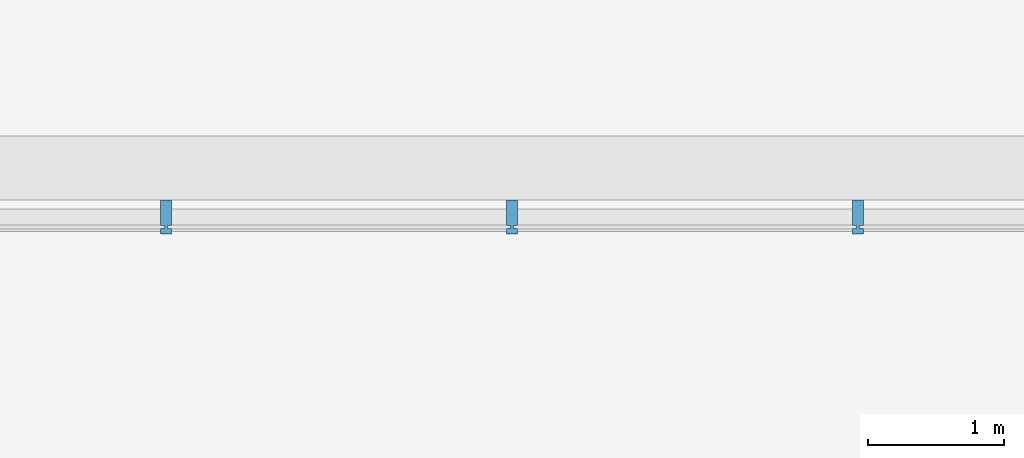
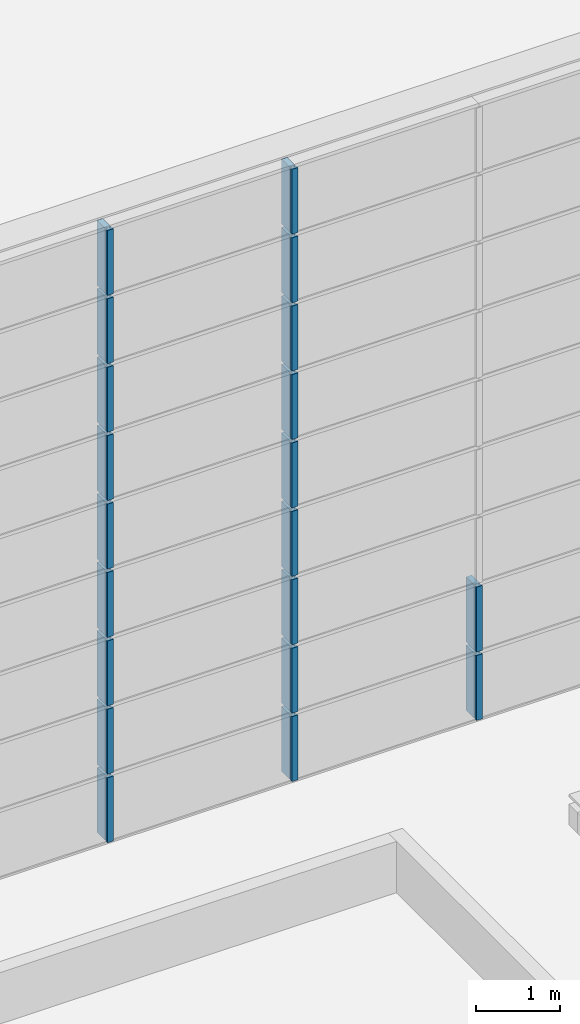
# One storey, part 80 of 105: 20 building element parts, 3 elements without a shape of their own.
"""IFC4 building model written with IfcOpenShell, lengths in millimetres."""

from ifc_helpers import new_model, entity, si_unit, converted_unit, derived_unit, direction, frame, origin_with_axes, place, context, subcontext, project, spatial, triangles, material, element, aggregate, save


model = new_model("IFC4")

# Units and contexts
model_context = context("Model", 3, precision=1e-05, world=origin_with_axes(), true_north=direction((0.0, 1.0)))
body_context = subcontext(model_context, "Body", "Model", "MODEL_VIEW")
ifc_project = project(units=[si_unit("LENGTHUNIT", "METRE", prefix="MILLI"), si_unit("AREAUNIT", "SQUARE_METRE"), si_unit("VOLUMEUNIT", "CUBIC_METRE"), converted_unit("PLANEANGLEUNIT", "DEGREE", entity("IfcLengthMeasure", 0.017453), si_unit("PLANEANGLEUNIT", "RADIAN"), dimensions=[0, 0, 0, 0, 0, 0, 0]), si_unit("SOLIDANGLEUNIT", "STERADIAN"), si_unit("MASSUNIT", "GRAM"), si_unit("TIMEUNIT", "SECOND"), si_unit("THERMODYNAMICTEMPERATUREUNIT", "DEGREE_CELSIUS"), si_unit("LUMINOUSINTENSITYUNIT", "LUMEN"), si_unit("POWERUNIT", "WATT"), derived_unit("THERMALTRANSMITTANCEUNIT", [(si_unit("POWERUNIT", "WATT"), 1), (si_unit("THERMODYNAMICTEMPERATUREUNIT", "KELVIN"), -1), (si_unit("AREAUNIT", "SQUARE_METRE"), -1)])], contexts=[model_context])

# Site, building, storey
site_placement = place(None, origin_with_axes())
site = spatial("IfcSite", under=ifc_project, at=site_placement, Name="Default Site", CompositionType="ELEMENT")
building_placement = place(site_placement, origin_with_axes())
building = spatial("IfcBuilding", under=site, at=building_placement, Name="Default Building", CompositionType="ELEMENT")
storey_placement = place(building_placement, origin_with_axes())
storey = spatial("IfcBuildingStorey", under=building, at=storey_placement, Name="OG - Story", CompositionType="ELEMENT", Elevation=0.0)

# Curtain wall, building element parts
curtain_wall_1_placement = place(storey_placement, origin_with_axes())
curtain_wall_1 = element("IfcCurtainWall", 1, at=curtain_wall_1_placement, inside=storey, Name="Fassade-005", PredefinedType="NOTDEFINED")
ifc_material = material(Name="Blech")
building_element_part_1_placement = place(curtain_wall_1_placement, frame((52496.845873, -27789.262838, 3000.0), z_axis=(0.0, 0.0, 1.0), x_axis=(1.0, 0.0, 0.0)))
building_element_part_1 = element("IfcBuildingElementPart", 2, at=building_element_part_1_placement, material=ifc_material, Name="Blech", PredefinedType="NOTDEFINED", context=body_context, shape_type="Tessellation", body=[
    triangles([(6417.273, 10.0, 975.0), (6417.273, 200.0, 975.0), (6387.273, 10.0, 975.0), (6367.273, 10.0, 975.0), (6387.273, -9.999, 975.0), (6417.273, -49.999, 975.0), (6417.273, -9.999, 975.0), (6337.273, 200.0, 975.0), (6337.273, 10.0, 975.0), (6367.273, -9.999, 975.0), (6337.273, -9.999, 975.0), (6337.273, -49.999, 975.0), (6387.273, 10.0, 25.0), (6417.273, 10.0, 25.0), (6417.273, 200.0, 25.0), (6337.273, 200.0, 25.0), (6337.273, 10.0, 25.0), (6367.273, 10.0, 25.0), (6367.273, -9.999, 25.0), (6337.273, -9.999, 25.0), (6337.273, -49.999, 25.0), (6417.273, -49.999, 25.0), (6417.273, -9.999, 25.0), (6387.273, -9.999, 25.0)], [[1, 2, 3], [3, 2, 4], [3, 4, 5], [5, 4, 6], [5, 6, 7], [8, 9, 4], [8, 4, 2], [6, 4, 10], [6, 10, 11], [6, 11, 12], [1, 3, 13], [1, 13, 14], [1, 14, 15], [1, 15, 2], [2, 15, 16], [2, 16, 8], [9, 8, 16], [9, 16, 17], [9, 17, 18], [9, 18, 4], [4, 18, 19], [4, 19, 10], [11, 10, 19], [11, 19, 20], [20, 21, 12], [20, 12, 11], [12, 21, 22], [12, 22, 6], [23, 7, 6], [23, 6, 22], [5, 7, 23], [5, 23, 24], [3, 5, 24], [3, 24, 13], [23, 22, 24], [24, 22, 19], [24, 19, 13], [13, 19, 15], [13, 15, 14], [21, 20, 19], [21, 19, 22], [15, 19, 18], [15, 18, 17], [15, 17, 16]], closed=False),
])
building_element_part_2_placement = place(curtain_wall_1_placement, frame((52496.845873, -27789.262838, 3000.0), z_axis=(0.0, 0.0, 1.0), x_axis=(1.0, 0.0, 0.0)))
building_element_part_2 = element("IfcBuildingElementPart", 3, at=building_element_part_2_placement, material=ifc_material, Name="Blech", PredefinedType="NOTDEFINED", context=body_context, shape_type="Tessellation", body=[
    triangles([(8968.182, 10.0, 975.0), (8968.182, 200.0, 975.0), (8938.182, 10.0, 975.0), (8918.182, 10.0, 975.0), (8938.182, -9.999, 975.0), (8968.182, -49.999, 975.0), (8968.182, -9.999, 975.0), (8888.182, 200.0, 975.0), (8888.182, 10.0, 975.0), (8918.182, -9.999, 975.0), (8888.182, -9.999, 975.0), (8888.182, -49.999, 975.0), (8938.182, 10.0, 25.0), (8968.182, 10.0, 25.0), (8968.182, 200.0, 25.0), (8888.182, 200.0, 25.0), (8888.182, 10.0, 25.0), (8918.182, 10.0, 25.0), (8918.182, -9.999, 25.0), (8888.182, -9.999, 25.0), (8888.182, -49.999, 25.0), (8968.182, -49.999, 25.0), (8968.182, -9.999, 25.0), (8938.182, -9.999, 25.0)], [[1, 2, 3], [3, 2, 4], [3, 4, 5], [5, 4, 6], [5, 6, 7], [8, 9, 4], [8, 4, 2], [6, 4, 10], [6, 10, 11], [6, 11, 12], [1, 3, 13], [1, 13, 14], [1, 14, 15], [1, 15, 2], [2, 15, 16], [2, 16, 8], [9, 8, 16], [9, 16, 17], [9, 17, 18], [9, 18, 4], [4, 18, 19], [4, 19, 10], [11, 10, 19], [11, 19, 20], [20, 21, 12], [20, 12, 11], [12, 21, 22], [12, 22, 6], [23, 7, 6], [23, 6, 22], [5, 7, 23], [5, 23, 24], [3, 5, 24], [3, 24, 13], [23, 22, 24], [24, 22, 19], [24, 19, 13], [13, 19, 15], [13, 15, 14], [21, 20, 19], [21, 19, 22], [15, 19, 18], [15, 18, 17], [15, 17, 16]], closed=False),
])
building_element_part_3_placement = place(curtain_wall_1_placement, frame((52496.845873, -27789.262838, 3000.0), z_axis=(0.0, 0.0, 1.0), x_axis=(1.0, 0.0, 0.0)))
building_element_part_3 = element("IfcBuildingElementPart", 4, at=building_element_part_3_placement, material=ifc_material, Name="Blech", PredefinedType="NOTDEFINED", context=body_context, shape_type="Tessellation", body=[
    triangles([(11519.091, 10.0, 975.0), (11519.091, 200.0, 975.0), (11489.091, 10.0, 975.0), (11469.091, 10.0, 975.0), (11489.091, -9.999, 975.0), (11519.091, -49.999, 975.0), (11519.091, -9.999, 975.0), (11439.091, 200.0, 975.0), (11439.091, 10.0, 975.0), (11469.091, -9.999, 975.0), (11439.091, -9.999, 975.0), (11439.091, -49.999, 975.0), (11489.091, 10.0, 25.0), (11519.091, 10.0, 25.0), (11519.091, 200.0, 25.0), (11439.091, 200.0, 25.0), (11439.091, 10.0, 25.0), (11469.091, 10.0, 25.0), (11469.091, -9.999, 25.0), (11439.091, -9.999, 25.0), (11439.091, -49.999, 25.0), (11519.091, -49.999, 25.0), (11519.091, -9.999, 25.0), (11489.091, -9.999, 25.0)], [[1, 2, 3], [3, 2, 4], [3, 4, 5], [5, 4, 6], [5, 6, 7], [8, 9, 4], [8, 4, 2], [6, 4, 10], [6, 10, 11], [6, 11, 12], [1, 3, 13], [1, 13, 14], [1, 14, 15], [1, 15, 2], [2, 15, 16], [2, 16, 8], [9, 8, 16], [9, 16, 17], [9, 17, 18], [9, 18, 4], [4, 18, 19], [4, 19, 10], [11, 10, 19], [11, 19, 20], [20, 21, 12], [20, 12, 11], [12, 21, 22], [12, 22, 6], [23, 7, 6], [23, 6, 22], [5, 7, 23], [5, 23, 24], [3, 5, 24], [3, 24, 13], [23, 22, 24], [24, 22, 19], [24, 19, 13], [13, 19, 15], [13, 15, 14], [21, 20, 19], [21, 19, 22], [15, 19, 18], [15, 18, 17], [15, 17, 16]], closed=False),
])
building_element_part_4_placement = place(curtain_wall_1_placement, frame((52496.845873, -27789.262838, 3000.0), z_axis=(0.0, 0.0, 1.0), x_axis=(1.0, 0.0, 0.0)))
building_element_part_4 = element("IfcBuildingElementPart", 5, at=building_element_part_4_placement, material=ifc_material, Name="Blech", PredefinedType="NOTDEFINED", context=body_context, shape_type="Tessellation", body=[
    triangles([(6417.273, 10.0, 1975.0), (6417.273, 200.0, 1975.0), (6387.273, 10.0, 1975.0), (6367.273, 10.0, 1975.0), (6387.273, -9.999, 1975.0), (6417.273, -49.999, 1975.0), (6417.273, -9.999, 1975.0), (6337.273, 200.0, 1975.0), (6337.273, 10.0, 1975.0), (6367.273, -9.999, 1975.0), (6337.273, -9.999, 1975.0), (6337.273, -49.999, 1975.0), (6387.273, 10.0, 1025.0), (6417.273, 10.0, 1025.0), (6417.273, 200.0, 1025.0), (6337.273, 200.0, 1025.0), (6337.273, 10.0, 1025.0), (6367.273, 10.0, 1025.0), (6367.273, -9.999, 1025.0), (6337.273, -9.999, 1025.0), (6337.273, -49.999, 1025.0), (6417.273, -49.999, 1025.0), (6417.273, -9.999, 1025.0), (6387.273, -9.999, 1025.0)], [[1, 2, 3], [3, 2, 4], [3, 4, 5], [5, 4, 6], [5, 6, 7], [8, 9, 4], [8, 4, 2], [6, 4, 10], [6, 10, 11], [6, 11, 12], [1, 3, 13], [1, 13, 14], [1, 14, 15], [1, 15, 2], [2, 15, 16], [2, 16, 8], [9, 8, 16], [9, 16, 17], [9, 17, 18], [9, 18, 4], [4, 18, 19], [4, 19, 10], [11, 10, 19], [11, 19, 20], [20, 21, 12], [20, 12, 11], [12, 21, 22], [12, 22, 6], [23, 7, 6], [23, 6, 22], [5, 7, 23], [5, 23, 24], [3, 5, 24], [3, 24, 13], [23, 22, 24], [24, 22, 19], [24, 19, 13], [13, 19, 15], [13, 15, 14], [21, 20, 19], [21, 19, 22], [15, 19, 18], [15, 18, 17], [15, 17, 16]], closed=False),
])
building_element_part_5_placement = place(curtain_wall_1_placement, frame((52496.845873, -27789.262838, 3000.0), z_axis=(0.0, 0.0, 1.0), x_axis=(1.0, 0.0, 0.0)))
building_element_part_5 = element("IfcBuildingElementPart", 6, at=building_element_part_5_placement, material=ifc_material, Name="Blech", PredefinedType="NOTDEFINED", context=body_context, shape_type="Tessellation", body=[
    triangles([(8968.182, 10.0, 1975.0), (8968.182, 200.0, 1975.0), (8938.182, 10.0, 1975.0), (8918.182, 10.0, 1975.0), (8938.182, -9.999, 1975.0), (8968.182, -49.999, 1975.0), (8968.182, -9.999, 1975.0), (8888.182, 200.0, 1975.0), (8888.182, 10.0, 1975.0), (8918.182, -9.999, 1975.0), (8888.182, -9.999, 1975.0), (8888.182, -49.999, 1975.0), (8938.182, 10.0, 1025.0), (8968.182, 10.0, 1025.0), (8968.182, 200.0, 1025.0), (8888.182, 200.0, 1025.0), (8888.182, 10.0, 1025.0), (8918.182, 10.0, 1025.0), (8918.182, -9.999, 1025.0), (8888.182, -9.999, 1025.0), (8888.182, -49.999, 1025.0), (8968.182, -49.999, 1025.0), (8968.182, -9.999, 1025.0), (8938.182, -9.999, 1025.0)], [[1, 2, 3], [3, 2, 4], [3, 4, 5], [5, 4, 6], [5, 6, 7], [8, 9, 4], [8, 4, 2], [6, 4, 10], [6, 10, 11], [6, 11, 12], [1, 3, 13], [1, 13, 14], [1, 14, 15], [1, 15, 2], [2, 15, 16], [2, 16, 8], [9, 8, 16], [9, 16, 17], [9, 17, 18], [9, 18, 4], [4, 18, 19], [4, 19, 10], [11, 10, 19], [11, 19, 20], [20, 21, 12], [20, 12, 11], [12, 21, 22], [12, 22, 6], [23, 7, 6], [23, 6, 22], [5, 7, 23], [5, 23, 24], [3, 5, 24], [3, 24, 13], [23, 22, 24], [24, 22, 19], [24, 19, 13], [13, 19, 15], [13, 15, 14], [21, 20, 19], [21, 19, 22], [15, 19, 18], [15, 18, 17], [15, 17, 16]], closed=False),
])
building_element_part_6_placement = place(curtain_wall_1_placement, frame((52496.845873, -27789.262838, 3000.0), z_axis=(0.0, 0.0, 1.0), x_axis=(1.0, 0.0, 0.0)))
building_element_part_6 = element("IfcBuildingElementPart", 7, at=building_element_part_6_placement, material=ifc_material, Name="Blech", PredefinedType="NOTDEFINED", context=body_context, shape_type="Tessellation", body=[
    triangles([(11519.091, 10.0, 1975.0), (11519.091, 200.0, 1975.0), (11489.091, 10.0, 1975.0), (11469.091, 10.0, 1975.0), (11489.091, -9.999, 1975.0), (11519.091, -49.999, 1975.0), (11519.091, -9.999, 1975.0), (11439.091, 200.0, 1975.0), (11439.091, 10.0, 1975.0), (11469.091, -9.999, 1975.0), (11439.091, -9.999, 1975.0), (11439.091, -49.999, 1975.0), (11489.091, 10.0, 1025.0), (11519.091, 10.0, 1025.0), (11519.091, 200.0, 1025.0), (11439.091, 200.0, 1025.0), (11439.091, 10.0, 1025.0), (11469.091, 10.0, 1025.0), (11469.091, -9.999, 1025.0), (11439.091, -9.999, 1025.0), (11439.091, -49.999, 1025.0), (11519.091, -49.999, 1025.0), (11519.091, -9.999, 1025.0), (11489.091, -9.999, 1025.0)], [[1, 2, 3], [3, 2, 4], [3, 4, 5], [5, 4, 6], [5, 6, 7], [8, 9, 4], [8, 4, 2], [6, 4, 10], [6, 10, 11], [6, 11, 12], [1, 3, 13], [1, 13, 14], [1, 14, 15], [1, 15, 2], [2, 15, 16], [2, 16, 8], [9, 8, 16], [9, 16, 17], [9, 17, 18], [9, 18, 4], [4, 18, 19], [4, 19, 10], [11, 10, 19], [11, 19, 20], [20, 21, 12], [20, 12, 11], [12, 21, 22], [12, 22, 6], [23, 7, 6], [23, 6, 22], [5, 7, 23], [5, 23, 24], [3, 5, 24], [3, 24, 13], [23, 22, 24], [24, 22, 19], [24, 19, 13], [13, 19, 15], [13, 15, 14], [21, 20, 19], [21, 19, 22], [15, 19, 18], [15, 18, 17], [15, 17, 16]], closed=False),
])
building_element_part_7_placement = place(curtain_wall_1_placement, frame((52496.845873, -27789.262838, 3000.0), z_axis=(0.0, 0.0, 1.0), x_axis=(1.0, 0.0, 0.0)))
building_element_part_7 = element("IfcBuildingElementPart", 8, at=building_element_part_7_placement, material=ifc_material, Name="Blech", PredefinedType="NOTDEFINED", context=body_context, shape_type="Tessellation", body=[
    triangles([(6417.273, 10.0, 2975.0), (6417.273, 200.0, 2975.0), (6387.273, 10.0, 2975.0), (6367.273, 10.0, 2975.0), (6387.273, -9.999, 2975.0), (6417.273, -49.999, 2975.0), (6417.273, -9.999, 2975.0), (6337.273, 200.0, 2975.0), (6337.273, 10.0, 2975.0), (6367.273, -9.999, 2975.0), (6337.273, -9.999, 2975.0), (6337.273, -49.999, 2975.0), (6387.273, 10.0, 2025.0), (6417.273, 10.0, 2025.0), (6417.273, 200.0, 2025.0), (6337.273, 200.0, 2025.0), (6337.273, 10.0, 2025.0), (6367.273, 10.0, 2025.0), (6367.273, -9.999, 2025.0), (6337.273, -9.999, 2025.0), (6337.273, -49.999, 2025.0), (6417.273, -49.999, 2025.0), (6417.273, -9.999, 2025.0), (6387.273, -9.999, 2025.0)], [[1, 2, 3], [3, 2, 4], [3, 4, 5], [5, 4, 6], [5, 6, 7], [8, 9, 4], [8, 4, 2], [6, 4, 10], [6, 10, 11], [6, 11, 12], [1, 3, 13], [1, 13, 14], [1, 14, 15], [1, 15, 2], [2, 15, 16], [2, 16, 8], [9, 8, 16], [9, 16, 17], [9, 17, 18], [9, 18, 4], [4, 18, 19], [4, 19, 10], [11, 10, 19], [11, 19, 20], [20, 21, 12], [20, 12, 11], [12, 21, 22], [12, 22, 6], [23, 7, 6], [23, 6, 22], [5, 7, 23], [5, 23, 24], [3, 5, 24], [3, 24, 13], [23, 22, 24], [24, 22, 19], [24, 19, 13], [13, 19, 15], [13, 15, 14], [21, 20, 19], [21, 19, 22], [15, 19, 18], [15, 18, 17], [15, 17, 16]], closed=False),
])
building_element_part_8_placement = place(curtain_wall_1_placement, frame((52496.845873, -27789.262838, 3000.0), z_axis=(0.0, 0.0, 1.0), x_axis=(1.0, 0.0, 0.0)))
building_element_part_8 = element("IfcBuildingElementPart", 9, at=building_element_part_8_placement, material=ifc_material, Name="Blech", PredefinedType="NOTDEFINED", context=body_context, shape_type="Tessellation", body=[
    triangles([(8968.182, 10.0, 2975.0), (8968.182, 200.0, 2975.0), (8938.182, 10.0, 2975.0), (8918.182, 10.0, 2975.0), (8938.182, -9.999, 2975.0), (8968.182, -49.999, 2975.0), (8968.182, -9.999, 2975.0), (8888.182, 200.0, 2975.0), (8888.182, 10.0, 2975.0), (8918.182, -9.999, 2975.0), (8888.182, -9.999, 2975.0), (8888.182, -49.999, 2975.0), (8938.182, 10.0, 2025.0), (8968.182, 10.0, 2025.0), (8968.182, 200.0, 2025.0), (8888.182, 200.0, 2025.0), (8888.182, 10.0, 2025.0), (8918.182, 10.0, 2025.0), (8918.182, -9.999, 2025.0), (8888.182, -9.999, 2025.0), (8888.182, -49.999, 2025.0), (8968.182, -49.999, 2025.0), (8968.182, -9.999, 2025.0), (8938.182, -9.999, 2025.0)], [[1, 2, 3], [3, 2, 4], [3, 4, 5], [5, 4, 6], [5, 6, 7], [8, 9, 4], [8, 4, 2], [6, 4, 10], [6, 10, 11], [6, 11, 12], [1, 3, 13], [1, 13, 14], [1, 14, 15], [1, 15, 2], [2, 15, 16], [2, 16, 8], [9, 8, 16], [9, 16, 17], [9, 17, 18], [9, 18, 4], [4, 18, 19], [4, 19, 10], [11, 10, 19], [11, 19, 20], [20, 21, 12], [20, 12, 11], [12, 21, 22], [12, 22, 6], [23, 7, 6], [23, 6, 22], [5, 7, 23], [5, 23, 24], [3, 5, 24], [3, 24, 13], [23, 22, 24], [24, 22, 19], [24, 19, 13], [13, 19, 15], [13, 15, 14], [21, 20, 19], [21, 19, 22], [15, 19, 18], [15, 18, 17], [15, 17, 16]], closed=False),
])
aggregate(curtain_wall_1, [building_element_part_1, building_element_part_2, building_element_part_3, building_element_part_4, building_element_part_5, building_element_part_6, building_element_part_7, building_element_part_8])

curtain_wall_2_placement = place(storey_placement, origin_with_axes())
curtain_wall_2 = element("IfcCurtainWall", 10, at=curtain_wall_2_placement, inside=storey, Name="Fassade-005", PredefinedType="NOTDEFINED")
building_element_part_9_placement = place(curtain_wall_2_placement, frame((52496.845873, -27789.262838, 6000.0), z_axis=(0.0, 0.0, 1.0), x_axis=(1.0, 0.0, 0.0)))
building_element_part_9 = element("IfcBuildingElementPart", 11, at=building_element_part_9_placement, material=ifc_material, Name="Blech", PredefinedType="NOTDEFINED", context=body_context, shape_type="Tessellation", body=[
    triangles([(6417.273, 10.0, 975.0), (6417.273, 200.0, 975.0), (6387.273, 10.0, 975.0), (6367.273, 10.0, 975.0), (6387.273, -9.999, 975.0), (6417.273, -49.999, 975.0), (6417.273, -9.999, 975.0), (6337.273, 200.0, 975.0), (6337.273, 10.0, 975.0), (6367.273, -9.999, 975.0), (6337.273, -9.999, 975.0), (6337.273, -49.999, 975.0), (6387.273, 10.0, 25.0), (6417.273, 10.0, 25.0), (6417.273, 200.0, 25.0), (6337.273, 200.0, 25.0), (6337.273, 10.0, 25.0), (6367.273, 10.0, 25.0), (6367.273, -9.999, 25.0), (6337.273, -9.999, 25.0), (6337.273, -49.999, 25.0), (6417.273, -49.999, 25.0), (6417.273, -9.999, 25.0), (6387.273, -9.999, 25.0)], [[1, 2, 3], [3, 2, 4], [3, 4, 5], [5, 4, 6], [5, 6, 7], [8, 9, 4], [8, 4, 2], [6, 4, 10], [6, 10, 11], [6, 11, 12], [1, 3, 13], [1, 13, 14], [1, 14, 15], [1, 15, 2], [2, 15, 16], [2, 16, 8], [9, 8, 16], [9, 16, 17], [9, 17, 18], [9, 18, 4], [4, 18, 19], [4, 19, 10], [11, 10, 19], [11, 19, 20], [20, 21, 12], [20, 12, 11], [12, 21, 22], [12, 22, 6], [23, 7, 6], [23, 6, 22], [5, 7, 23], [5, 23, 24], [3, 5, 24], [3, 24, 13], [23, 22, 24], [24, 22, 19], [24, 19, 13], [13, 19, 15], [13, 15, 14], [21, 20, 19], [21, 19, 22], [15, 19, 18], [15, 18, 17], [15, 17, 16]], closed=False),
])
building_element_part_10_placement = place(curtain_wall_2_placement, frame((52496.845873, -27789.262838, 6000.0), z_axis=(0.0, 0.0, 1.0), x_axis=(1.0, 0.0, 0.0)))
building_element_part_10 = element("IfcBuildingElementPart", 12, at=building_element_part_10_placement, material=ifc_material, Name="Blech", PredefinedType="NOTDEFINED", context=body_context, shape_type="Tessellation", body=[
    triangles([(8968.182, 10.0, 975.0), (8968.182, 200.0, 975.0), (8938.182, 10.0, 975.0), (8918.182, 10.0, 975.0), (8938.182, -9.999, 975.0), (8968.182, -49.999, 975.0), (8968.182, -9.999, 975.0), (8888.182, 200.0, 975.0), (8888.182, 10.0, 975.0), (8918.182, -9.999, 975.0), (8888.182, -9.999, 975.0), (8888.182, -49.999, 975.0), (8938.182, 10.0, 25.0), (8968.182, 10.0, 25.0), (8968.182, 200.0, 25.0), (8888.182, 200.0, 25.0), (8888.182, 10.0, 25.0), (8918.182, 10.0, 25.0), (8918.182, -9.999, 25.0), (8888.182, -9.999, 25.0), (8888.182, -49.999, 25.0), (8968.182, -49.999, 25.0), (8968.182, -9.999, 25.0), (8938.182, -9.999, 25.0)], [[1, 2, 3], [3, 2, 4], [3, 4, 5], [5, 4, 6], [5, 6, 7], [8, 9, 4], [8, 4, 2], [6, 4, 10], [6, 10, 11], [6, 11, 12], [1, 3, 13], [1, 13, 14], [1, 14, 15], [1, 15, 2], [2, 15, 16], [2, 16, 8], [9, 8, 16], [9, 16, 17], [9, 17, 18], [9, 18, 4], [4, 18, 19], [4, 19, 10], [11, 10, 19], [11, 19, 20], [20, 21, 12], [20, 12, 11], [12, 21, 22], [12, 22, 6], [23, 7, 6], [23, 6, 22], [5, 7, 23], [5, 23, 24], [3, 5, 24], [3, 24, 13], [23, 22, 24], [24, 22, 19], [24, 19, 13], [13, 19, 15], [13, 15, 14], [21, 20, 19], [21, 19, 22], [15, 19, 18], [15, 18, 17], [15, 17, 16]], closed=False),
])
building_element_part_11_placement = place(curtain_wall_2_placement, frame((52496.845873, -27789.262838, 6000.0), z_axis=(0.0, 0.0, 1.0), x_axis=(1.0, 0.0, 0.0)))
building_element_part_11 = element("IfcBuildingElementPart", 13, at=building_element_part_11_placement, material=ifc_material, Name="Blech", PredefinedType="NOTDEFINED", context=body_context, shape_type="Tessellation", body=[
    triangles([(6417.273, 10.0, 1975.0), (6417.273, 200.0, 1975.0), (6387.273, 10.0, 1975.0), (6367.273, 10.0, 1975.0), (6387.273, -9.999, 1975.0), (6417.273, -49.999, 1975.0), (6417.273, -9.999, 1975.0), (6337.273, 200.0, 1975.0), (6337.273, 10.0, 1975.0), (6367.273, -9.999, 1975.0), (6337.273, -9.999, 1975.0), (6337.273, -49.999, 1975.0), (6387.273, 10.0, 1025.0), (6417.273, 10.0, 1025.0), (6417.273, 200.0, 1025.0), (6337.273, 200.0, 1025.0), (6337.273, 10.0, 1025.0), (6367.273, 10.0, 1025.0), (6367.273, -9.999, 1025.0), (6337.273, -9.999, 1025.0), (6337.273, -49.999, 1025.0), (6417.273, -49.999, 1025.0), (6417.273, -9.999, 1025.0), (6387.273, -9.999, 1025.0)], [[1, 2, 3], [3, 2, 4], [3, 4, 5], [5, 4, 6], [5, 6, 7], [8, 9, 4], [8, 4, 2], [6, 4, 10], [6, 10, 11], [6, 11, 12], [1, 3, 13], [1, 13, 14], [1, 14, 15], [1, 15, 2], [2, 15, 16], [2, 16, 8], [9, 8, 16], [9, 16, 17], [9, 17, 18], [9, 18, 4], [4, 18, 19], [4, 19, 10], [11, 10, 19], [11, 19, 20], [20, 21, 12], [20, 12, 11], [12, 21, 22], [12, 22, 6], [23, 7, 6], [23, 6, 22], [5, 7, 23], [5, 23, 24], [3, 5, 24], [3, 24, 13], [23, 22, 24], [24, 22, 19], [24, 19, 13], [13, 19, 15], [13, 15, 14], [21, 20, 19], [21, 19, 22], [15, 19, 18], [15, 18, 17], [15, 17, 16]], closed=False),
])
building_element_part_12_placement = place(curtain_wall_2_placement, frame((52496.845873, -27789.262838, 6000.0), z_axis=(0.0, 0.0, 1.0), x_axis=(1.0, 0.0, 0.0)))
building_element_part_12 = element("IfcBuildingElementPart", 14, at=building_element_part_12_placement, material=ifc_material, Name="Blech", PredefinedType="NOTDEFINED", context=body_context, shape_type="Tessellation", body=[
    triangles([(8968.182, 10.0, 1975.0), (8968.182, 200.0, 1975.0), (8938.182, 10.0, 1975.0), (8918.182, 10.0, 1975.0), (8938.182, -9.999, 1975.0), (8968.182, -49.999, 1975.0), (8968.182, -9.999, 1975.0), (8888.182, 200.0, 1975.0), (8888.182, 10.0, 1975.0), (8918.182, -9.999, 1975.0), (8888.182, -9.999, 1975.0), (8888.182, -49.999, 1975.0), (8938.182, 10.0, 1025.0), (8968.182, 10.0, 1025.0), (8968.182, 200.0, 1025.0), (8888.182, 200.0, 1025.0), (8888.182, 10.0, 1025.0), (8918.182, 10.0, 1025.0), (8918.182, -9.999, 1025.0), (8888.182, -9.999, 1025.0), (8888.182, -49.999, 1025.0), (8968.182, -49.999, 1025.0), (8968.182, -9.999, 1025.0), (8938.182, -9.999, 1025.0)], [[1, 2, 3], [3, 2, 4], [3, 4, 5], [5, 4, 6], [5, 6, 7], [8, 9, 4], [8, 4, 2], [6, 4, 10], [6, 10, 11], [6, 11, 12], [1, 3, 13], [1, 13, 14], [1, 14, 15], [1, 15, 2], [2, 15, 16], [2, 16, 8], [9, 8, 16], [9, 16, 17], [9, 17, 18], [9, 18, 4], [4, 18, 19], [4, 19, 10], [11, 10, 19], [11, 19, 20], [20, 21, 12], [20, 12, 11], [12, 21, 22], [12, 22, 6], [23, 7, 6], [23, 6, 22], [5, 7, 23], [5, 23, 24], [3, 5, 24], [3, 24, 13], [23, 22, 24], [24, 22, 19], [24, 19, 13], [13, 19, 15], [13, 15, 14], [21, 20, 19], [21, 19, 22], [15, 19, 18], [15, 18, 17], [15, 17, 16]], closed=False),
])
building_element_part_13_placement = place(curtain_wall_2_placement, frame((52496.845873, -27789.262838, 6000.0), z_axis=(0.0, 0.0, 1.0), x_axis=(1.0, 0.0, 0.0)))
building_element_part_13 = element("IfcBuildingElementPart", 15, at=building_element_part_13_placement, material=ifc_material, Name="Blech", PredefinedType="NOTDEFINED", context=body_context, shape_type="Tessellation", body=[
    triangles([(6417.273, 10.0, 2975.0), (6417.273, 200.0, 2975.0), (6387.273, 10.0, 2975.0), (6367.273, 10.0, 2975.0), (6387.273, -9.999, 2975.0), (6417.273, -49.999, 2975.0), (6417.273, -9.999, 2975.0), (6337.273, 200.0, 2975.0), (6337.273, 10.0, 2975.0), (6367.273, -9.999, 2975.0), (6337.273, -9.999, 2975.0), (6337.273, -49.999, 2975.0), (6387.273, 10.0, 2025.0), (6417.273, 10.0, 2025.0), (6417.273, 200.0, 2025.0), (6337.273, 200.0, 2025.0), (6337.273, 10.0, 2025.0), (6367.273, 10.0, 2025.0), (6367.273, -9.999, 2025.0), (6337.273, -9.999, 2025.0), (6337.273, -49.999, 2025.0), (6417.273, -49.999, 2025.0), (6417.273, -9.999, 2025.0), (6387.273, -9.999, 2025.0)], [[1, 2, 3], [3, 2, 4], [3, 4, 5], [5, 4, 6], [5, 6, 7], [8, 9, 4], [8, 4, 2], [6, 4, 10], [6, 10, 11], [6, 11, 12], [1, 3, 13], [1, 13, 14], [1, 14, 15], [1, 15, 2], [2, 15, 16], [2, 16, 8], [9, 8, 16], [9, 16, 17], [9, 17, 18], [9, 18, 4], [4, 18, 19], [4, 19, 10], [11, 10, 19], [11, 19, 20], [20, 21, 12], [20, 12, 11], [12, 21, 22], [12, 22, 6], [23, 7, 6], [23, 6, 22], [5, 7, 23], [5, 23, 24], [3, 5, 24], [3, 24, 13], [23, 22, 24], [24, 22, 19], [24, 19, 13], [13, 19, 15], [13, 15, 14], [21, 20, 19], [21, 19, 22], [15, 19, 18], [15, 18, 17], [15, 17, 16]], closed=False),
])
building_element_part_14_placement = place(curtain_wall_2_placement, frame((52496.845873, -27789.262838, 6000.0), z_axis=(0.0, 0.0, 1.0), x_axis=(1.0, 0.0, 0.0)))
building_element_part_14 = element("IfcBuildingElementPart", 16, at=building_element_part_14_placement, material=ifc_material, Name="Blech", PredefinedType="NOTDEFINED", context=body_context, shape_type="Tessellation", body=[
    triangles([(8968.182, 10.0, 2975.0), (8968.182, 200.0, 2975.0), (8938.182, 10.0, 2975.0), (8918.182, 10.0, 2975.0), (8938.182, -9.999, 2975.0), (8968.182, -49.999, 2975.0), (8968.182, -9.999, 2975.0), (8888.182, 200.0, 2975.0), (8888.182, 10.0, 2975.0), (8918.182, -9.999, 2975.0), (8888.182, -9.999, 2975.0), (8888.182, -49.999, 2975.0), (8938.182, 10.0, 2025.0), (8968.182, 10.0, 2025.0), (8968.182, 200.0, 2025.0), (8888.182, 200.0, 2025.0), (8888.182, 10.0, 2025.0), (8918.182, 10.0, 2025.0), (8918.182, -9.999, 2025.0), (8888.182, -9.999, 2025.0), (8888.182, -49.999, 2025.0), (8968.182, -49.999, 2025.0), (8968.182, -9.999, 2025.0), (8938.182, -9.999, 2025.0)], [[1, 2, 3], [3, 2, 4], [3, 4, 5], [5, 4, 6], [5, 6, 7], [8, 9, 4], [8, 4, 2], [6, 4, 10], [6, 10, 11], [6, 11, 12], [1, 3, 13], [1, 13, 14], [1, 14, 15], [1, 15, 2], [2, 15, 16], [2, 16, 8], [9, 8, 16], [9, 16, 17], [9, 17, 18], [9, 18, 4], [4, 18, 19], [4, 19, 10], [11, 10, 19], [11, 19, 20], [20, 21, 12], [20, 12, 11], [12, 21, 22], [12, 22, 6], [23, 7, 6], [23, 6, 22], [5, 7, 23], [5, 23, 24], [3, 5, 24], [3, 24, 13], [23, 22, 24], [24, 22, 19], [24, 19, 13], [13, 19, 15], [13, 15, 14], [21, 20, 19], [21, 19, 22], [15, 19, 18], [15, 18, 17], [15, 17, 16]], closed=False),
])
aggregate(curtain_wall_2, [building_element_part_9, building_element_part_10, building_element_part_11, building_element_part_12, building_element_part_13, building_element_part_14])

curtain_wall_3_placement = place(storey_placement, origin_with_axes())
curtain_wall_3 = element("IfcCurtainWall", 17, at=curtain_wall_3_placement, inside=storey, Name="Fassade-005", PredefinedType="NOTDEFINED")
building_element_part_15_placement = place(curtain_wall_3_placement, frame((52496.845873, -27789.262838, 9000.0), z_axis=(0.0, 0.0, 1.0), x_axis=(1.0, 0.0, 0.0)))
building_element_part_15 = element("IfcBuildingElementPart", 18, at=building_element_part_15_placement, material=ifc_material, Name="Blech", PredefinedType="NOTDEFINED", context=body_context, shape_type="Tessellation", body=[
    triangles([(6417.273, 10.0, 975.0), (6417.273, 200.0, 975.0), (6387.273, 10.0, 975.0), (6367.273, 10.0, 975.0), (6387.273, -9.999, 975.0), (6417.273, -49.999, 975.0), (6417.273, -9.999, 975.0), (6337.273, 200.0, 975.0), (6337.273, 10.0, 975.0), (6367.273, -9.999, 975.0), (6337.273, -9.999, 975.0), (6337.273, -49.999, 975.0), (6387.273, 10.0, 25.0), (6417.273, 10.0, 25.0), (6417.273, 200.0, 25.0), (6337.273, 200.0, 25.0), (6337.273, 10.0, 25.0), (6367.273, 10.0, 25.0), (6367.273, -9.999, 25.0), (6337.273, -9.999, 25.0), (6337.273, -49.999, 25.0), (6417.273, -49.999, 25.0), (6417.273, -9.999, 25.0), (6387.273, -9.999, 25.0)], [[1, 2, 3], [3, 2, 4], [3, 4, 5], [5, 4, 6], [5, 6, 7], [8, 9, 4], [8, 4, 2], [6, 4, 10], [6, 10, 11], [6, 11, 12], [1, 3, 13], [1, 13, 14], [1, 14, 15], [1, 15, 2], [2, 15, 16], [2, 16, 8], [9, 8, 16], [9, 16, 17], [9, 17, 18], [9, 18, 4], [4, 18, 19], [4, 19, 10], [11, 10, 19], [11, 19, 20], [20, 21, 12], [20, 12, 11], [12, 21, 22], [12, 22, 6], [23, 7, 6], [23, 6, 22], [5, 7, 23], [5, 23, 24], [3, 5, 24], [3, 24, 13], [23, 22, 24], [24, 22, 19], [24, 19, 13], [13, 19, 15], [13, 15, 14], [21, 20, 19], [21, 19, 22], [15, 19, 18], [15, 18, 17], [15, 17, 16]], closed=False),
])
building_element_part_16_placement = place(curtain_wall_3_placement, frame((52496.845873, -27789.262838, 9000.0), z_axis=(0.0, 0.0, 1.0), x_axis=(1.0, 0.0, 0.0)))
building_element_part_16 = element("IfcBuildingElementPart", 19, at=building_element_part_16_placement, material=ifc_material, Name="Blech", PredefinedType="NOTDEFINED", context=body_context, shape_type="Tessellation", body=[
    triangles([(8968.182, 10.0, 975.0), (8968.182, 200.0, 975.0), (8938.182, 10.0, 975.0), (8918.182, 10.0, 975.0), (8938.182, -9.999, 975.0), (8968.182, -49.999, 975.0), (8968.182, -9.999, 975.0), (8888.182, 200.0, 975.0), (8888.182, 10.0, 975.0), (8918.182, -9.999, 975.0), (8888.182, -9.999, 975.0), (8888.182, -49.999, 975.0), (8938.182, 10.0, 25.0), (8968.182, 10.0, 25.0), (8968.182, 200.0, 25.0), (8888.182, 200.0, 25.0), (8888.182, 10.0, 25.0), (8918.182, 10.0, 25.0), (8918.182, -9.999, 25.0), (8888.182, -9.999, 25.0), (8888.182, -49.999, 25.0), (8968.182, -49.999, 25.0), (8968.182, -9.999, 25.0), (8938.182, -9.999, 25.0)], [[1, 2, 3], [3, 2, 4], [3, 4, 5], [5, 4, 6], [5, 6, 7], [8, 9, 4], [8, 4, 2], [6, 4, 10], [6, 10, 11], [6, 11, 12], [1, 3, 13], [1, 13, 14], [1, 14, 15], [1, 15, 2], [2, 15, 16], [2, 16, 8], [9, 8, 16], [9, 16, 17], [9, 17, 18], [9, 18, 4], [4, 18, 19], [4, 19, 10], [11, 10, 19], [11, 19, 20], [20, 21, 12], [20, 12, 11], [12, 21, 22], [12, 22, 6], [23, 7, 6], [23, 6, 22], [5, 7, 23], [5, 23, 24], [3, 5, 24], [3, 24, 13], [23, 22, 24], [24, 22, 19], [24, 19, 13], [13, 19, 15], [13, 15, 14], [21, 20, 19], [21, 19, 22], [15, 19, 18], [15, 18, 17], [15, 17, 16]], closed=False),
])
building_element_part_17_placement = place(curtain_wall_3_placement, frame((52496.845873, -27789.262838, 9000.0), z_axis=(0.0, 0.0, 1.0), x_axis=(1.0, 0.0, 0.0)))
building_element_part_17 = element("IfcBuildingElementPart", 20, at=building_element_part_17_placement, material=ifc_material, Name="Blech", PredefinedType="NOTDEFINED", context=body_context, shape_type="Tessellation", body=[
    triangles([(6417.273, 10.0, 1975.0), (6417.273, 200.0, 1975.0), (6387.273, 10.0, 1975.0), (6367.273, 10.0, 1975.0), (6387.273, -9.999, 1975.0), (6417.273, -49.999, 1975.0), (6417.273, -9.999, 1975.0), (6337.273, 200.0, 1975.0), (6337.273, 10.0, 1975.0), (6367.273, -9.999, 1975.0), (6337.273, -9.999, 1975.0), (6337.273, -49.999, 1975.0), (6387.273, 10.0, 1025.0), (6417.273, 10.0, 1025.0), (6417.273, 200.0, 1025.0), (6337.273, 200.0, 1025.0), (6337.273, 10.0, 1025.0), (6367.273, 10.0, 1025.0), (6367.273, -9.999, 1025.0), (6337.273, -9.999, 1025.0), (6337.273, -49.999, 1025.0), (6417.273, -49.999, 1025.0), (6417.273, -9.999, 1025.0), (6387.273, -9.999, 1025.0)], [[1, 2, 3], [3, 2, 4], [3, 4, 5], [5, 4, 6], [5, 6, 7], [8, 9, 4], [8, 4, 2], [6, 4, 10], [6, 10, 11], [6, 11, 12], [1, 3, 13], [1, 13, 14], [1, 14, 15], [1, 15, 2], [2, 15, 16], [2, 16, 8], [9, 8, 16], [9, 16, 17], [9, 17, 18], [9, 18, 4], [4, 18, 19], [4, 19, 10], [11, 10, 19], [11, 19, 20], [20, 21, 12], [20, 12, 11], [12, 21, 22], [12, 22, 6], [23, 7, 6], [23, 6, 22], [5, 7, 23], [5, 23, 24], [3, 5, 24], [3, 24, 13], [23, 22, 24], [24, 22, 19], [24, 19, 13], [13, 19, 15], [13, 15, 14], [21, 20, 19], [21, 19, 22], [15, 19, 18], [15, 18, 17], [15, 17, 16]], closed=False),
])
building_element_part_18_placement = place(curtain_wall_3_placement, frame((52496.845873, -27789.262838, 9000.0), z_axis=(0.0, 0.0, 1.0), x_axis=(1.0, 0.0, 0.0)))
building_element_part_18 = element("IfcBuildingElementPart", 21, at=building_element_part_18_placement, material=ifc_material, Name="Blech", PredefinedType="NOTDEFINED", context=body_context, shape_type="Tessellation", body=[
    triangles([(8968.182, 10.0, 1975.0), (8968.182, 200.0, 1975.0), (8938.182, 10.0, 1975.0), (8918.182, 10.0, 1975.0), (8938.182, -9.999, 1975.0), (8968.182, -49.999, 1975.0), (8968.182, -9.999, 1975.0), (8888.182, 200.0, 1975.0), (8888.182, 10.0, 1975.0), (8918.182, -9.999, 1975.0), (8888.182, -9.999, 1975.0), (8888.182, -49.999, 1975.0), (8938.182, 10.0, 1025.0), (8968.182, 10.0, 1025.0), (8968.182, 200.0, 1025.0), (8888.182, 200.0, 1025.0), (8888.182, 10.0, 1025.0), (8918.182, 10.0, 1025.0), (8918.182, -9.999, 1025.0), (8888.182, -9.999, 1025.0), (8888.182, -49.999, 1025.0), (8968.182, -49.999, 1025.0), (8968.182, -9.999, 1025.0), (8938.182, -9.999, 1025.0)], [[1, 2, 3], [3, 2, 4], [3, 4, 5], [5, 4, 6], [5, 6, 7], [8, 9, 4], [8, 4, 2], [6, 4, 10], [6, 10, 11], [6, 11, 12], [1, 3, 13], [1, 13, 14], [1, 14, 15], [1, 15, 2], [2, 15, 16], [2, 16, 8], [9, 8, 16], [9, 16, 17], [9, 17, 18], [9, 18, 4], [4, 18, 19], [4, 19, 10], [11, 10, 19], [11, 19, 20], [20, 21, 12], [20, 12, 11], [12, 21, 22], [12, 22, 6], [23, 7, 6], [23, 6, 22], [5, 7, 23], [5, 23, 24], [3, 5, 24], [3, 24, 13], [23, 22, 24], [24, 22, 19], [24, 19, 13], [13, 19, 15], [13, 15, 14], [21, 20, 19], [21, 19, 22], [15, 19, 18], [15, 18, 17], [15, 17, 16]], closed=False),
])
building_element_part_19_placement = place(curtain_wall_3_placement, frame((52496.845873, -27789.262838, 9000.0), z_axis=(0.0, 0.0, 1.0), x_axis=(1.0, 0.0, 0.0)))
building_element_part_19 = element("IfcBuildingElementPart", 22, at=building_element_part_19_placement, material=ifc_material, Name="Blech", PredefinedType="NOTDEFINED", context=body_context, shape_type="Tessellation", body=[
    triangles([(6417.273, 10.0, 2975.0), (6417.273, 200.0, 2975.0), (6387.273, 10.0, 2975.0), (6367.273, 10.0, 2975.0), (6387.273, -9.999, 2975.0), (6417.273, -49.999, 2975.0), (6417.273, -9.999, 2975.0), (6337.273, 200.0, 2975.0), (6337.273, 10.0, 2975.0), (6367.273, -9.999, 2975.0), (6337.273, -9.999, 2975.0), (6337.273, -49.999, 2975.0), (6387.273, 10.0, 2025.0), (6417.273, 10.0, 2025.0), (6417.273, 200.0, 2025.0), (6337.273, 200.0, 2025.0), (6337.273, 10.0, 2025.0), (6367.273, 10.0, 2025.0), (6367.273, -9.999, 2025.0), (6337.273, -9.999, 2025.0), (6337.273, -49.999, 2025.0), (6417.273, -49.999, 2025.0), (6417.273, -9.999, 2025.0), (6387.273, -9.999, 2025.0)], [[1, 2, 3], [3, 2, 4], [3, 4, 5], [5, 4, 6], [5, 6, 7], [8, 9, 4], [8, 4, 2], [6, 4, 10], [6, 10, 11], [6, 11, 12], [1, 3, 13], [1, 13, 14], [1, 14, 15], [1, 15, 2], [2, 15, 16], [2, 16, 8], [9, 8, 16], [9, 16, 17], [9, 17, 18], [9, 18, 4], [4, 18, 19], [4, 19, 10], [11, 10, 19], [11, 19, 20], [20, 21, 12], [20, 12, 11], [12, 21, 22], [12, 22, 6], [23, 7, 6], [23, 6, 22], [5, 7, 23], [5, 23, 24], [3, 5, 24], [3, 24, 13], [23, 22, 24], [24, 22, 19], [24, 19, 13], [13, 19, 15], [13, 15, 14], [21, 20, 19], [21, 19, 22], [15, 19, 18], [15, 18, 17], [15, 17, 16]], closed=False),
])
building_element_part_20_placement = place(curtain_wall_3_placement, frame((52496.845873, -27789.262838, 9000.0), z_axis=(0.0, 0.0, 1.0), x_axis=(1.0, 0.0, 0.0)))
building_element_part_20 = element("IfcBuildingElementPart", 23, at=building_element_part_20_placement, material=ifc_material, Name="Blech", PredefinedType="NOTDEFINED", context=body_context, shape_type="Tessellation", body=[
    triangles([(8968.182, 10.0, 2975.0), (8968.182, 200.0, 2975.0), (8938.182, 10.0, 2975.0), (8918.182, 10.0, 2975.0), (8938.182, -9.999, 2975.0), (8968.182, -49.999, 2975.0), (8968.182, -9.999, 2975.0), (8888.182, 200.0, 2975.0), (8888.182, 10.0, 2975.0), (8918.182, -9.999, 2975.0), (8888.182, -9.999, 2975.0), (8888.182, -49.999, 2975.0), (8938.182, 10.0, 2025.0), (8968.182, 10.0, 2025.0), (8968.182, 200.0, 2025.0), (8888.182, 200.0, 2025.0), (8888.182, 10.0, 2025.0), (8918.182, 10.0, 2025.0), (8918.182, -9.999, 2025.0), (8888.182, -9.999, 2025.0), (8888.182, -49.999, 2025.0), (8968.182, -49.999, 2025.0), (8968.182, -9.999, 2025.0), (8938.182, -9.999, 2025.0)], [[1, 2, 3], [3, 2, 4], [3, 4, 5], [5, 4, 6], [5, 6, 7], [8, 9, 4], [8, 4, 2], [6, 4, 10], [6, 10, 11], [6, 11, 12], [1, 3, 13], [1, 13, 14], [1, 14, 15], [1, 15, 2], [2, 15, 16], [2, 16, 8], [9, 8, 16], [9, 16, 17], [9, 17, 18], [9, 18, 4], [4, 18, 19], [4, 19, 10], [11, 10, 19], [11, 19, 20], [20, 21, 12], [20, 12, 11], [12, 21, 22], [12, 22, 6], [23, 7, 6], [23, 6, 22], [5, 7, 23], [5, 23, 24], [3, 5, 24], [3, 24, 13], [23, 22, 24], [24, 22, 19], [24, 19, 13], [13, 19, 15], [13, 15, 14], [21, 20, 19], [21, 19, 22], [15, 19, 18], [15, 18, 17], [15, 17, 16]], closed=False),
])
aggregate(curtain_wall_3, [building_element_part_15, building_element_part_16, building_element_part_17, building_element_part_18, building_element_part_19, building_element_part_20])

save(model, "model.ifc")
